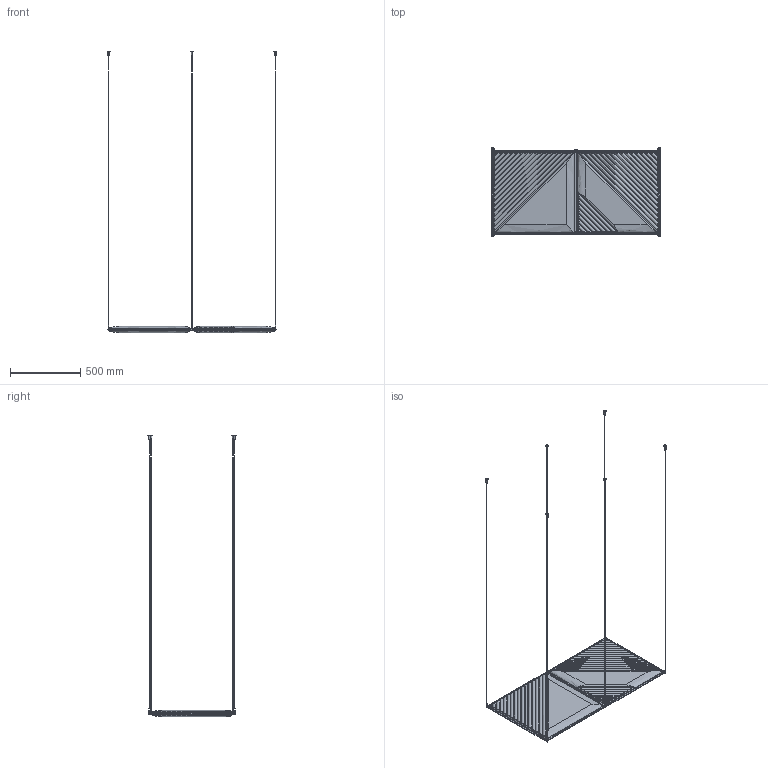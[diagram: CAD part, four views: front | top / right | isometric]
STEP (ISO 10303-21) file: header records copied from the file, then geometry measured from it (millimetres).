
FILE_DESCRIPTION(/* description */ (''),/* implementation_level */ '2;1');
FILE_NAME(/* name */ 'C2',/* time_stamp */ '2022-12-22T16:06:26+01:00',/* author */ (''),/* organization */ (''),/* preprocessor_version */ 'ST-DEVELOPER v16.5',/* originating_system */ 'Rhino 7.22',/* authorisation */ '');
FILE_SCHEMA (('CONFIG_CONTROL_DESIGN'));
Length unit declared in the file: millimetre
Products named in the file (1): Document
Bounding box: 1205.63 x 629.03 x 1998.36 mm (x, y, z)
Volume: 21168196.4 mm3; surface area: 4588983.9 mm2
Topology: 27 solids, 27 shells, 531 faces, 1271 edges, 804 vertices
Faces by surface type: bspline 218, cylinder 214, plane 99
Entity records: 25989 total; most frequent: CARTESIAN_POINT 17897, ORIENTED_EDGE 2542, EDGE_CURVE 1271, VERTEX_POINT 804, B_SPLINE_CURVE_WITH_KNOTS 609, EDGE_LOOP 569, ADVANCED_FACE 531, FACE_OUTER_BOUND 531
